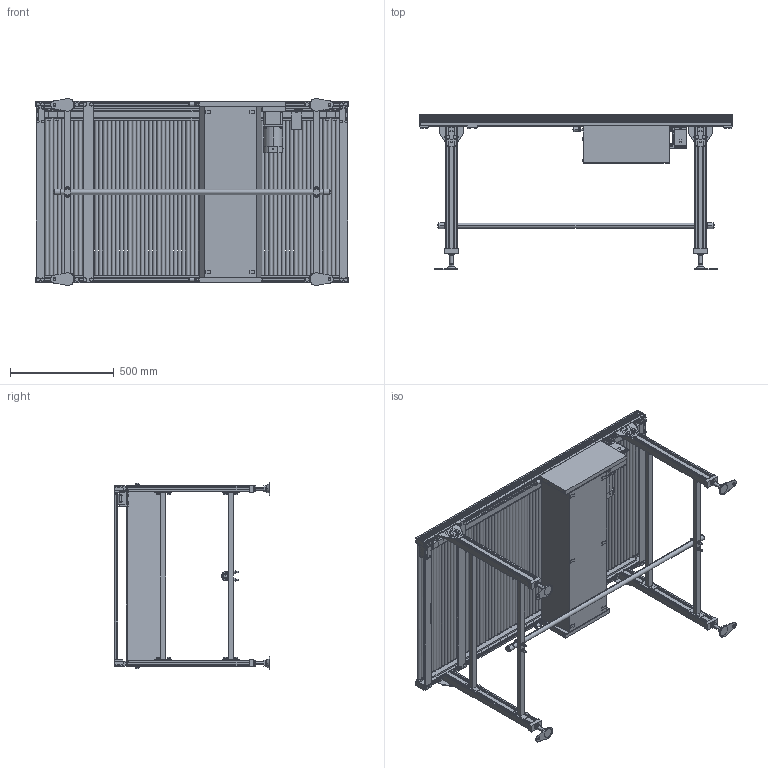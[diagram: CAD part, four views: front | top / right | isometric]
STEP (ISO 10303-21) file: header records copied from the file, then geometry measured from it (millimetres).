
FILE_DESCRIPTION( (''), '2;1');
FILE_NAME ('MRA1-309-800-150-K-180-O.stp','2025-02-17T14:08:13',(''),(''),'spGate 20.6.2 (****-****-****-****)','','');
FILE_SCHEMA (('AUTOMOTIVE_DESIGN'));
Length unit declared in the file: millimetre
Products named in the file (55): NewModel; MRA1-309-800-150-K-180-O; TEMP_X_T-prt0; TEMP_X_T-prt1; TEMP_X_T-prt2; TEMP_X_T-prt3; TEMP_X_T-prt4; TEMP_X_T-prt5; TEMP_X_T-prt6; TEMP_X_T-prt7; TEMP_X_T-prt8; TEMP_X_T-prt9; TEMP_X_T-prt10; TEMP_X_T-prt11; TEMP_X_T-prt12; TEMP_X_T-prt13; TEMP_X_T-prt14; TEMP_X_T-prt15; TEMP_X_T-prt16; TEMP_X_T-prt17; TEMP_X_T-prt18; TEMP_X_T-prt19; TEMP_X_T-prt20; TEMP_X_T-prt21; TEMP_X_T-prt22; TEMP_X_T-prt23; TEMP_X_T-prt24; TEMP_X_T-prt25; TEMP_X_T-prt26; TEMP_X_T-prt27; TEMP_X_T-prt28; TEMP_X_T-prt29; TEMP_X_T-prt30; TEMP_X_T-prt31; TEMP_X_T-prt32; TEMP_X_T-prt33; TEMP_X_T-prt34; TEMP_X_T-prt35; TEMP_X_T-prt36; TEMP_X_T-prt37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
Assembly tree (54 placements, depth 3):
  NewModel
    MRA1-309-800-150-K-180-O
      TEMP_X_T-prt0
      TEMP_X_T-prt1
      TEMP_X_T-prt2
      TEMP_X_T-prt3
      TEMP_X_T-prt4
      TEMP_X_T-prt5
      TEMP_X_T-prt6
      TEMP_X_T-prt7
      TEMP_X_T-prt8
      TEMP_X_T-prt9
      TEMP_X_T-prt10
      TEMP_X_T-prt11
      TEMP_X_T-prt12
      TEMP_X_T-prt13
      TEMP_X_T-prt14
      TEMP_X_T-prt15
      TEMP_X_T-prt16
      TEMP_X_T-prt17
      TEMP_X_T-prt18
      TEMP_X_T-prt19
      TEMP_X_T-prt20
      TEMP_X_T-prt21
      TEMP_X_T-prt22
      TEMP_X_T-prt23
      TEMP_X_T-prt24
      TEMP_X_T-prt25
      TEMP_X_T-prt26
      TEMP_X_T-prt27
      TEMP_X_T-prt28
      TEMP_X_T-prt29
      TEMP_X_T-prt30
      TEMP_X_T-prt31
      TEMP_X_T-prt32
      TEMP_X_T-prt33
      TEMP_X_T-prt34
      TEMP_X_T-prt35
      TEMP_X_T-prt36
      TEMP_X_T-prt37
      TEMP_X_T-prt38
      TEMP_X_T-prt39
      TEMP_X_T-prt40
      TEMP_X_T-prt41
      TEMP_X_T-prt42
      TEMP_X_T-prt43
      TEMP_X_T-prt44
      TEMP_X_T-prt45
      TEMP_X_T-prt46
      TEMP_X_T-prt47
      TEMP_X_T-prt48
      TEMP_X_T-prt49
      TEMP_X_T-prt50
      TEMP_X_T-prt51
      TEMP_X_T-prt52
Bounding box: 1510 x 750 x 900.99 mm (x, y, z)
Volume: 74700127.8 mm3; surface area: 7640223.3 mm2
Topology: 53 solids, 53 shells, 3000 faces, 7232 edges, 4647 vertices
Faces by surface type: plane 1797, cylinder 1005, bspline 194, sphere 4
Entity records: 149141 total; most frequent: CARTESIAN_POINT 19151, ORIENTED_EDGE 14424, DIRECTION 14189, COLOUR_RGB 10265, PRESENTATION_STYLE_ASSIGNMENT 10265, STYLED_ITEM 10265, EDGE_CURVE 7212, DRAUGHTING_PRE_DEFINED_CURVE_FONT 7212
